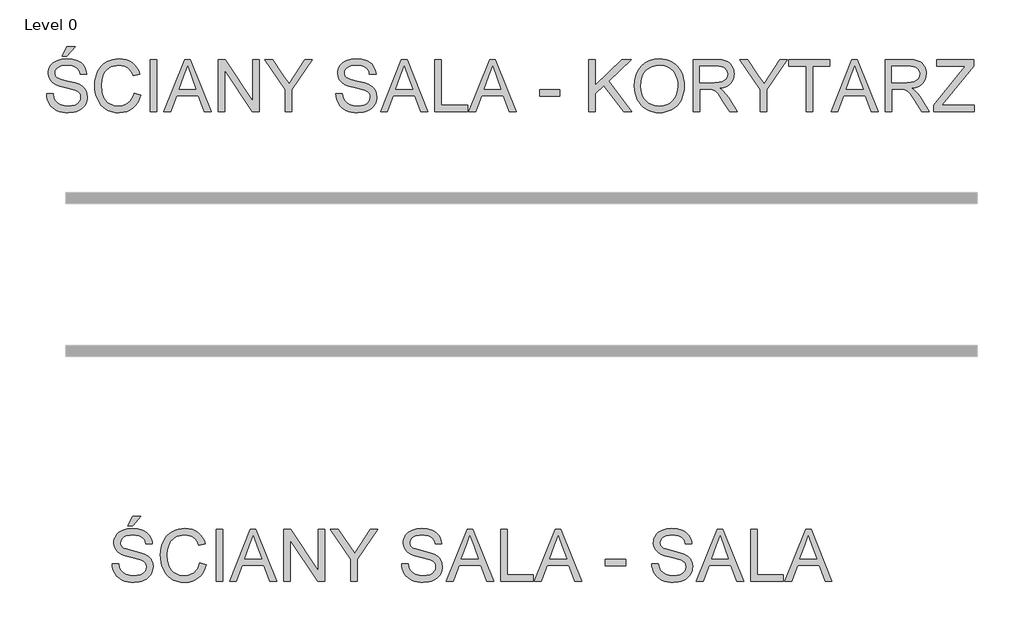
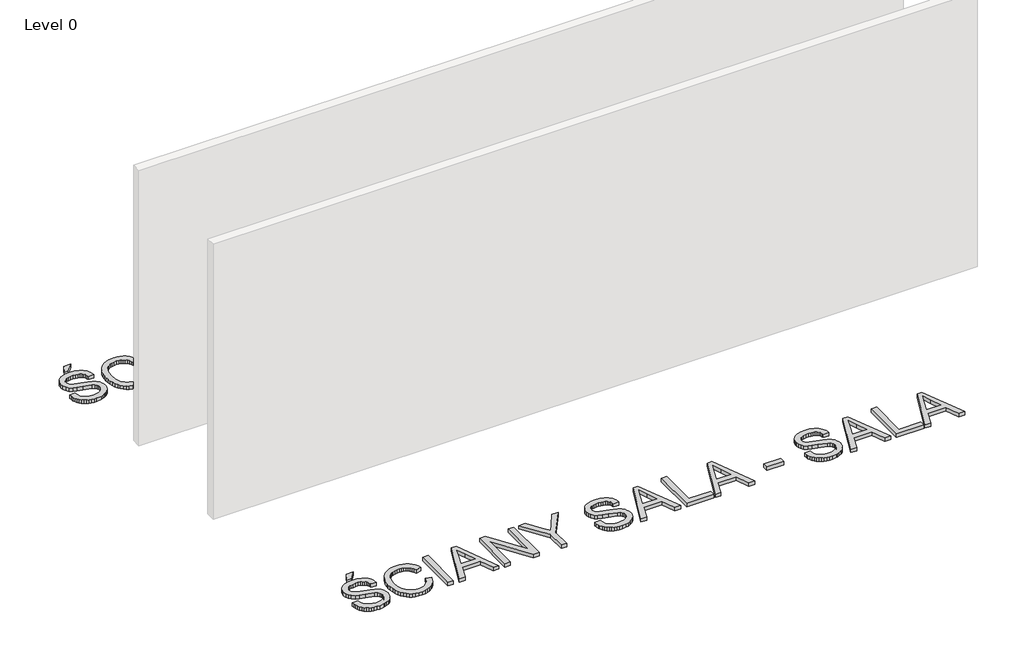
# One storey, part 3 of 3: 2 proxies.
"""IFC4 building model written with IfcOpenShell, lengths in millimetres."""

from ifc_helpers import new_model, si_unit, origin, origin_with_axes, place, context, project, spatial, polyline, outline, extrude, element, save

model = new_model("IFC4")

# Units and contexts
model_context = context("Model", 3, world=origin())
ifc_project = project(units=[si_unit("LENGTHUNIT", "METRE", prefix="MILLI")], contexts=[model_context])

# Site, building, storey
site = spatial("IfcSite", under=ifc_project)
building = spatial("IfcBuilding", under=site)
storey = spatial("IfcBuildingStorey", under=building, Name="Level 0", Elevation=0.0)

# Proxies
placement = place(None, origin())
element("IfcBuildingElementProxy", 1, Name="600mm Arial", ObjectType="600mm Arial", at=placement, inside=storey, context=model_context, shape_type="SweptSolid", body=[
    extrude(outline(polyline([(-2481.7464256, 20827.4359681), (-2406.4041929, 20827.4359681), (-2397.7589661, 20785.6261793), (-2382.1239813, 20752.020159), (-2357.733405, 20725.3487144), (-2322.8214036, 20704.3426525), (-2280.1470922, 20690.7126245), (-2232.4695856, 20686.1692819), (-2190.49425, 20689.6089786), (-2153.7428387, 20699.9280685), (-2123.9627911, 20716.2620291), (-2102.9015469, 20737.7463376), (-2090.375165, 20762.4128254), (-2086.1997043, 20788.2933238), (-2089.3267013, 20813.5116345), (-2098.7076922, 20835.3086428), (-2117.7639795, 20853.9050776), (-2149.9168659, 20869.5216683), (-2259.6192769, 20898.2900403), (-2331.6321774, 20917.3279336), (-2377.7093973, 20935.4461218), (-2415.2149667, 20960.7931913), (-2441.7944409, 20991.5113379), (-2457.6317608, 21026.938374), (-2462.9108674, 21066.4121121), (-2461.278391, 21088.8483153), (-2456.380962, 21110.5395574), (-2448.2185802, 21131.4858385), (-2436.7912457, 21151.6871586), (-2422.2277173, 21170.3203817), (-2404.6567535, 21186.5623717), (-2384.0783544, 21200.4131289), (-2360.4925199, 21211.872653), (-2307.4807244, 21227.2685145), (-2248.8035462, 21232.4004683), (-2185.2335374, 21227.0293912), (-2129.6097798, 21210.9161598), (-2105.2743858, 21198.9140097), (-2083.918836, 21184.391868), (-2065.5431303, 21167.3497346), (-2050.1472688, 21147.7876095), (-2037.8508131, 21126.2757098), (-2028.7733249, 21103.3842526), (-2022.9148041, 21079.113238), (-2020.2752508, 21053.4626659), (-2095.6174834, 21053.4626659), (-2100.6574668, 21077.5037543), (-2109.4498464, 21098.4178457), (-2121.9946225, 21116.2049402), (-2138.2917949, 21130.8650377), (-2158.6448662, 21142.3245618), (-2183.3573393, 21150.5099362), (-2212.4292139, 21155.4211609), (-2245.8604902, 21157.0582357), (-2280.3586243, 21155.439555), (-2309.8351692, 21150.5835126), (-2334.2901248, 21142.4901087), (-2353.7234912, 21131.1593433), (-2368.5307415, 21117.5385124), (-2379.1073489, 21102.5749122), (-2385.4533133, 21086.2685428), (-2387.5686348, 21068.6194041), (-2386.0695157, 21053.4350747), (-2381.5721583, 21039.6670911), (-2374.0765626, 21027.3154531), (-2363.5827287, 21016.3801608), (-2347.0648271, 21006.0242826), (-2321.0555701, 20995.5580399), (-2240.5629895, 20974.2944605), (-2157.495235, 20954.097739), (-2107.2425545, 20936.4761914), (-2064.2923315, 20909.1425592), (-2047.687058, 20893.075313), (-2034.328343, 20875.4077802), (-2024.0598368, 20856.2319312), (-2016.7251896, 20835.6397365), (-2010.8574717, 20790.2063101), (-2012.5451304, 20766.6388698), (-2017.6081063, 20743.7612083), (-2026.0463996, 20721.5733254), (-2037.8600102, 20700.0752213), (-2052.8420044, 20680.099229), (-2070.7854487, 20662.4776814), (-2091.6903431, 20647.2105786), (-2115.5566876, 20634.2979206), (-2141.6901048, 20624.0294144), (-2169.3962176, 20616.6947671), (-2229.5265297, 20610.8270493), (-2268.0667672, 20612.4089419), (-2303.342052, 20617.1546196), (-2335.3523841, 20625.0640825), (-2364.0977635, 20636.1373306), (-2389.7529341, 20650.3927579), (-2412.49264, 20667.8487585), (-2432.316881, 20688.5053326), (-2449.2256572, 20712.36248), (-2462.8464881, 20738.6476485), (-2472.8068931, 20766.5882861), (-2479.1068722, 20796.1843926), (-2481.7464256, 20827.4359681)])), origin_with_axes(), (0.0, 0.0, 1.0), 50.0),
    extrude(outline(polyline([(-2302.8086231, 21260.6538056), (-2246.3019486, 21373.6671545), (-2152.1241579, 21373.6671545), (-2246.3019486, 21260.6538056), (-2302.8086231, 21260.6538056)])), origin_with_axes(), (0.0, 0.0, 1.0), 50.0),
    extrude(outline(polyline([(-1474.0440644, 20834.4993024), (-1398.7018318, 20815.075133), (-1413.6102496, 20768.2207624), (-1433.4666803, 20727.2800949), (-1458.2711238, 20692.2531304), (-1488.0235802, 20663.139869), (-1522.0526647, 20640.2530104), (-1559.6869928, 20623.9052542), (-1600.9265645, 20614.0966005), (-1645.7713797, 20610.8270493), (-1691.7152424, 20613.3010557), (-1733.1617477, 20620.723075), (-1770.1108956, 20633.0931071), (-1802.5626861, 20650.411152), (-1830.9631761, 20672.4196923), (-1855.7584226, 20698.8612107), (-1876.9484255, 20729.7357072), (-1894.5331849, 20765.0431817), (-1908.3425552, 20803.2569239), (-1918.2063912, 20842.8502237), (-1924.1246928, 20883.8230809), (-1926.09746, 20926.1754956), (-1923.8671754, 20971.618119), (-1917.1763217, 21014.0625042), (-1906.0248987, 21053.5086511), (-1890.4129065, 21089.9565598), (-1870.689833, 21122.8038235), (-1847.2051662, 21151.4480353), (-1819.9589059, 21175.8891954), (-1788.9510522, 21196.1273036), (-1755.2346674, 21211.9968132), (-1719.8628135, 21223.3321772), (-1682.8354907, 21230.1333956), (-1644.1526989, 21232.4004683), (-1601.0599217, 21229.4666094), (-1561.5447969, 21220.6650327), (-1525.6073245, 21205.9957381), (-1493.2475045, 21185.4587258), (-1464.9987658, 21159.5966215), (-1441.3945373, 21128.9520513), (-1422.434819, 21093.5250152), (-1408.1196108, 21053.3155131), (-1483.4618434, 21035.3628717), (-1495.3260378, 21064.9911679), (-1509.5814651, 21090.3060477), (-1526.2281254, 21111.3075111), (-1545.2660186, 21127.9955581), (-1566.8055095, 21140.7104796), (-1590.9569624, 21149.7925663), (-1617.7203776, 21155.2418184), (-1647.0957549, 21157.0582357), (-1680.8949132, 21155.0440818), (-1711.8061979, 21149.00162), (-1739.8296088, 21138.9308504), (-1764.9651462, 21124.831773), (-1786.8955116, 21107.3389841), (-1805.3034069, 21087.0870803), (-1820.1888322, 21064.0760615), (-1831.5517873, 21038.3059277), (-1845.9543674, 20983.1604166), (-1850.7552274, 20926.3226484), (-1845.0714506, 20856.7193749), (-1837.9667296, 20825.4494053), (-1828.0201201, 20796.5338805), (-1815.0706739, 20770.547616), (-1798.9574425, 20748.0654276), (-1779.680426, 20729.0873152), (-1757.2396243, 20713.6132787), (-1732.7248878, 20701.6065301), (-1707.226067, 20693.0302811), (-1680.7431619, 20687.8845317), (-1653.2761724, 20686.1692819), (-1620.5208793, 20688.5053326), (-1590.3867453, 20695.5134846), (-1562.8737706, 20707.1937379), (-1537.9819551, 20723.5460926), (-1516.29991, 20744.4969722), (-1498.4162465, 20769.9728004), (-1484.3309647, 20799.9735771), (-1474.0440644, 20834.4993024)])), origin_with_axes(), (0.0, 0.0, 1.0), 50.0),
    extrude(outline(polyline([(-1285.6884828, 20620.2448284), (-1285.6884828, 21222.9826893), (-1210.3462502, 21222.9826893), (-1210.3462502, 20620.2448284), (-1285.6884828, 20620.2448284)])), origin_with_axes(), (0.0, 0.0, 1.0), 50.0),
    extrude(outline(polyline([(-1129.8536697, 20620.2448284), (-889.2588448, 21222.9826893), (-825.1002249, 21222.9826893), (-584.5054, 20620.2448284), (-664.1150638, 20620.2448284), (-733.1297261, 20808.6004099), (-981.3764964, 20808.6004099), (-1050.2440059, 20620.2448284), (-1129.8536697, 20620.2448284)]), holes=[polyline([(-953.7117704, 20883.9426425), (-760.6472993, 20883.9426425), (-814.9466818, 21032.1255102), (-857.1795349, 21147.6404567), (-894.7034984, 21045.0749564), (-953.7117704, 20883.9426425)])]), origin_with_axes(), (0.0, 0.0, 1.0), 50.0),
    extrude(outline(polyline([(-504.0128195, 20620.2448284), (-504.0128195, 21222.9826893), (-423.3730861, 21222.9826893), (-108.4660983, 20745.4718595), (-108.4660983, 21222.9826893), (-33.1238657, 21222.9826893), (-33.1238657, 20620.2448284), (-113.763599, 20620.2448284), (-428.6705869, 21097.9028109), (-428.6705869, 20620.2448284), (-504.0128195, 20620.2448284)])), origin_with_axes(), (0.0, 0.0, 1.0), 50.0),
    extrude(outline(polyline([(268.2450648, 20620.2448284), (268.2450648, 20875.554933), (32.8005879, 21222.9826893), (121.6808779, 21222.9826893), (247.3493675, 21037.4230109), (311.6551402, 20942.8037617), (376.1080658, 21044.1920396), (490.1514843, 21222.9826893), (579.0317743, 21222.9826893), (343.5872974, 20875.554933), (343.5872974, 20620.2448284), (268.2450648, 20620.2448284)])), origin_with_axes(), (0.0, 0.0, 1.0), 50.0),
    extrude(outline(polyline([(852.1473675, 20827.4359681), (927.4896001, 20827.4359681), (936.134827, 20785.6261793), (951.7698118, 20752.020159), (976.1603881, 20725.3487144), (1011.0723895, 20704.3426525), (1053.7467009, 20690.7126245), (1101.4242075, 20686.1692819), (1143.3995431, 20689.6089786), (1180.1509544, 20699.9280685), (1209.9310019, 20716.2620291), (1230.9922462, 20737.7463376), (1243.5186281, 20762.4128254), (1247.6940887, 20788.2933238), (1244.5670918, 20813.5116345), (1235.1861009, 20835.3086428), (1216.1298136, 20853.9050776), (1183.9769272, 20869.5216683), (1074.2745162, 20898.2900403), (1002.2616157, 20917.3279336), (956.1843958, 20935.4461218), (918.6788264, 20960.7931913), (892.0993522, 20991.5113379), (876.2620323, 21026.938374), (870.9829257, 21066.4121121), (872.615402, 21088.8483153), (877.5128311, 21110.5395574), (885.6752129, 21131.4858385), (897.1025473, 21151.6871586), (911.6660758, 21170.3203817), (929.2370396, 21186.5623717), (949.8154387, 21200.4131289), (973.4012731, 21211.872653), (1026.4130686, 21227.2685145), (1085.0902469, 21232.4004683), (1148.6602556, 21227.0293912), (1204.2840133, 21210.9161598), (1228.6194073, 21198.9140097), (1249.9749571, 21184.391868), (1268.3506628, 21167.3497346), (1283.7465243, 21147.7876095), (1296.04298, 21126.2757098), (1305.1204682, 21103.3842526), (1310.978989, 21079.113238), (1313.6185423, 21053.4626659), (1238.2763097, 21053.4626659), (1233.2363263, 21077.5037543), (1224.4439467, 21098.4178457), (1211.8991706, 21116.2049402), (1195.6019982, 21130.8650377), (1175.2489268, 21142.3245618), (1150.5364538, 21150.5099362), (1121.4645792, 21155.4211609), (1088.0333028, 21157.0582357), (1053.5351687, 21155.439555), (1024.0586239, 21150.5835126), (999.6036683, 21142.4901087), (980.1703019, 21131.1593433), (965.3630515, 21117.5385124), (954.7864442, 21102.5749122), (948.4404798, 21086.2685428), (946.3251583, 21068.6194041), (947.8242774, 21053.4350747), (952.3216348, 21039.6670911), (959.8172305, 21027.3154531), (970.3110644, 21016.3801608), (986.828966, 21006.0242826), (1012.838223, 20995.5580399), (1093.3308036, 20974.2944605), (1176.3985581, 20954.097739), (1226.6512386, 20936.4761914), (1269.6014616, 20909.1425592), (1286.2067351, 20893.075313), (1299.5654501, 20875.4077802), (1309.8339563, 20856.2319312), (1317.1686035, 20835.6397365), (1323.0363214, 20790.2063101), (1321.3486627, 20766.6388698), (1316.2856867, 20743.7612083), (1307.8473935, 20721.5733254), (1296.0337829, 20700.0752213), (1281.0517887, 20680.099229), (1263.1083443, 20662.4776814), (1242.20345, 20647.2105786), (1218.3371055, 20634.2979206), (1192.2036883, 20624.0294144), (1164.4975755, 20616.6947671), (1104.3672634, 20610.8270493), (1065.8270259, 20612.4089419), (1030.5517411, 20617.1546196), (998.541409, 20625.0640825), (969.7960296, 20636.1373306), (944.140859, 20650.3927579), (921.4011531, 20667.8487585), (901.5769121, 20688.5053326), (884.6681359, 20712.36248), (871.047305, 20738.6476485), (861.0869, 20766.5882861), (854.7869208, 20796.1843926), (852.1473675, 20827.4359681)])), origin_with_axes(), (0.0, 0.0, 1.0), 50.0),
    extrude(outline(polyline([(1365.8577856, 20620.2448284), (1606.4526104, 21222.9826893), (1670.6112304, 21222.9826893), (1911.2060552, 20620.2448284), (1831.5963915, 20620.2448284), (1762.5817292, 20808.6004099), (1514.3349589, 20808.6004099), (1445.4674494, 20620.2448284), (1365.8577856, 20620.2448284)]), holes=[polyline([(1541.9996849, 20883.9426425), (1735.064156, 20883.9426425), (1680.7647735, 21032.1255102), (1638.5319204, 21147.6404567), (1601.0079569, 21045.0749564), (1541.9996849, 20883.9426425)])]), origin_with_axes(), (0.0, 0.0, 1.0), 50.0),
    extrude(outline(polyline([(1991.6986358, 20620.2448284), (1991.6986358, 21222.9826893), (2067.0408684, 21222.9826893), (2067.0408684, 20695.587061), (2368.4097989, 20695.587061), (2368.4097989, 20620.2448284), (1991.6986358, 20620.2448284)])), origin_with_axes(), (0.0, 0.0, 1.0), 50.0),
    extrude(outline(polyline([(2382.9779259, 20620.2448284), (2623.5727507, 21222.9826893), (2687.7313707, 21222.9826893), (2928.3261955, 20620.2448284), (2848.7165318, 20620.2448284), (2779.7018695, 20808.6004099), (2531.4550991, 20808.6004099), (2462.5875896, 20620.2448284), (2382.9779259, 20620.2448284)]), holes=[polyline([(2559.1198252, 20883.9426425), (2752.1842962, 20883.9426425), (2697.8849137, 21032.1255102), (2655.6520607, 21147.6404567), (2618.1280972, 21045.0749564), (2559.1198252, 20883.9426425)])]), origin_with_axes(), (0.0, 0.0, 1.0), 50.0),
    extrude(outline(polyline([(3197.1743576, 20799.1826308), (3197.1743576, 20874.5248634), (3432.6188345, 20874.5248634), (3432.6188345, 20799.1826308), (3197.1743576, 20799.1826308)])), origin_with_axes(), (0.0, 0.0, 1.0), 50.0),
    extrude(outline(polyline([(3733.987765, 20827.4359681), (3809.3299976, 20827.4359681), (3817.9752245, 20785.6261793), (3833.6102092, 20752.020159), (3858.0007855, 20725.3487144), (3892.9127869, 20704.3426525), (3935.5870983, 20690.7126245), (3983.2646049, 20686.1692819), (4025.2399405, 20689.6089786), (4061.9913519, 20699.9280685), (4091.7713994, 20716.2620291), (4112.8326436, 20737.7463376), (4125.3590255, 20762.4128254), (4129.5344862, 20788.2933238), (4126.4074892, 20813.5116345), (4117.0264983, 20835.3086428), (4097.970211, 20853.9050776), (4065.8173246, 20869.5216683), (3956.1149136, 20898.2900403), (3884.1020131, 20917.3279336), (3838.0247932, 20935.4461218), (3800.5192238, 20960.7931913), (3773.9397496, 20991.5113379), (3758.1024297, 21026.938374), (3752.8233231, 21066.4121121), (3754.4557995, 21088.8483153), (3759.3532285, 21110.5395574), (3767.5156103, 21131.4858385), (3778.9429448, 21151.6871586), (3793.5064732, 21170.3203817), (3811.077437, 21186.5623717), (3831.6558361, 21200.4131289), (3855.2416706, 21211.872653), (3908.2534661, 21227.2685145), (3966.9306443, 21232.4004683), (4030.5006531, 21227.0293912), (4086.1244107, 21210.9161598), (4110.4598047, 21198.9140097), (4131.8153545, 21184.391868), (4150.1910602, 21167.3497346), (4165.5869217, 21147.7876095), (4177.8833774, 21126.2757098), (4186.9608656, 21103.3842526), (4192.8193864, 21079.113238), (4195.4589397, 21053.4626659), (4120.1167071, 21053.4626659), (4115.0767238, 21077.5037543), (4106.2843441, 21098.4178457), (4093.739568, 21116.2049402), (4077.4423956, 21130.8650377), (4057.0893243, 21142.3245618), (4032.3768512, 21150.5099362), (4003.3049766, 21155.4211609), (3969.8737003, 21157.0582357), (3935.3755662, 21155.439555), (3905.8990213, 21150.5835126), (3881.4440657, 21142.4901087), (3862.0106993, 21131.1593433), (3847.203449, 21117.5385124), (3836.6268416, 21102.5749122), (3830.2808772, 21086.2685428), (3828.1655557, 21068.6194041), (3829.6646748, 21053.4350747), (3834.1620322, 21039.6670911), (3841.6576279, 21027.3154531), (3852.1514618, 21016.3801608), (3868.6693634, 21006.0242826), (3894.6786204, 20995.5580399), (3975.171201, 20974.2944605), (4058.2389555, 20954.097739), (4108.491636, 20936.4761914), (4151.441859, 20909.1425592), (4168.0471325, 20893.075313), (4181.4058475, 20875.4077802), (4191.6743537, 20856.2319312), (4199.009001, 20835.6397365), (4204.8767188, 20790.2063101), (4203.1890601, 20766.6388698), (4198.1260842, 20743.7612083), (4189.6877909, 20721.5733254), (4177.8741803, 20700.0752213), (4162.8921861, 20680.099229), (4144.9487418, 20662.4776814), (4124.0438474, 20647.2105786), (4100.177503, 20634.2979206), (4074.0440857, 20624.0294144), (4046.337973, 20616.6947671), (3986.2076608, 20610.8270493), (3947.6674233, 20612.4089419), (3912.3921385, 20617.1546196), (3880.3818064, 20625.0640825), (3851.636427, 20636.1373306), (3825.9812564, 20650.3927579), (3803.2415505, 20667.8487585), (3783.4173095, 20688.5053326), (3766.5085333, 20712.36248), (3752.8877025, 20738.6476485), (3742.9272974, 20766.5882861), (3736.6273183, 20796.1843926), (3733.987765, 20827.4359681)])), origin_with_axes(), (0.0, 0.0, 1.0), 50.0),
    extrude(outline(polyline([(4247.698183, 20620.2448284), (4488.2930079, 21222.9826893), (4552.4516278, 21222.9826893), (4793.0464527, 20620.2448284), (4713.4367889, 20620.2448284), (4644.4221266, 20808.6004099), (4396.1753563, 20808.6004099), (4327.3078468, 20620.2448284), (4247.698183, 20620.2448284)]), holes=[polyline([(4423.8400823, 20883.9426425), (4616.9045534, 20883.9426425), (4562.6051709, 21032.1255102), (4520.3723178, 21147.6404567), (4482.8483543, 21045.0749564), (4423.8400823, 20883.9426425)])]), origin_with_axes(), (0.0, 0.0, 1.0), 50.0),
    extrude(outline(polyline([(4873.5390332, 20620.2448284), (4873.5390332, 21222.9826893), (4948.8812658, 21222.9826893), (4948.8812658, 20695.587061), (5250.2501963, 20695.587061), (5250.2501963, 20620.2448284), (4873.5390332, 20620.2448284)])), origin_with_axes(), (0.0, 0.0, 1.0), 50.0),
    extrude(outline(polyline([(5264.8183233, 20620.2448284), (5505.4131481, 21222.9826893), (5569.5717681, 21222.9826893), (5810.1665929, 20620.2448284), (5730.5569292, 20620.2448284), (5661.5422669, 20808.6004099), (5413.2954965, 20808.6004099), (5344.427987, 20620.2448284), (5264.8183233, 20620.2448284)]), holes=[polyline([(5440.9602226, 20883.9426425), (5634.0246936, 20883.9426425), (5579.7253112, 21032.1255102), (5537.4924581, 21147.6404567), (5499.9684946, 21045.0749564), (5440.9602226, 20883.9426425)])]), origin_with_axes(), (0.0, 0.0, 1.0), 50.0),
])
element("IfcBuildingElementProxy", 2, Name="600mm Arial", ObjectType="600mm Arial", at=placement, inside=storey, context=model_context, shape_type="SweptSolid", body=[
    extrude(outline(polyline([(-3237.8936999, 26242.2698256), (-3162.5514673, 26242.2698256), (-3153.9062404, 26200.4600369), (-3138.2712556, 26166.8540166), (-3113.8806794, 26140.182572), (-3078.968678, 26119.1765101), (-3036.2943666, 26105.5464821), (-2988.61686, 26101.0031395), (-2946.6415243, 26104.4428362), (-2909.890113, 26114.7619261), (-2880.1100655, 26131.0958867), (-2859.0488213, 26152.5801952), (-2846.5224394, 26177.246683), (-2842.3469787, 26203.1271814), (-2845.4739757, 26228.3454921), (-2854.8549666, 26250.1425003), (-2873.9112539, 26268.7389352), (-2906.0641403, 26284.3555259), (-3015.7665512, 26313.1238979), (-3087.7794518, 26332.1617912), (-3133.8566717, 26350.2799794), (-3171.3622411, 26375.6270489), (-3197.9417153, 26406.3451955), (-3213.7790351, 26441.7722316), (-3219.0581418, 26481.2459697), (-3217.4256654, 26503.6821729), (-3212.5282364, 26525.373415), (-3204.3658546, 26546.3196961), (-3192.9385201, 26566.5210162), (-3178.3749916, 26585.1542393), (-3160.8040278, 26601.3962293), (-3140.2256287, 26615.2469865), (-3116.6397943, 26626.7065106), (-3063.6279988, 26642.1023721), (-3004.9508206, 26647.2343259), (-2941.3808118, 26641.8632488), (-2885.7570541, 26625.7500174), (-2861.4216602, 26613.7478673), (-2840.0661103, 26599.2257256), (-2821.6904047, 26582.1835921), (-2806.2945432, 26562.621467), (-2793.9980875, 26541.1095674), (-2784.9205993, 26518.2181102), (-2779.0620785, 26493.9470956), (-2776.4225252, 26468.2965235), (-2851.7647578, 26468.2965235), (-2856.8047411, 26492.3376119), (-2865.5971208, 26513.2517033), (-2878.1418968, 26531.0387978), (-2894.4390692, 26545.6988953), (-2914.7921406, 26557.1584194), (-2939.5046136, 26565.3437938), (-2968.5764883, 26570.2550184), (-3002.0077646, 26571.8920933), (-3036.5058987, 26570.2734125), (-3065.9824436, 26565.4173702), (-3090.4373992, 26557.3239663), (-3109.8707656, 26545.9932009), (-3124.6780159, 26532.37237), (-3135.2546233, 26517.4087698), (-3141.6005877, 26501.1024004), (-3143.7159092, 26483.4532617), (-3142.21679, 26468.2689323), (-3137.7194326, 26454.5009487), (-3130.223837, 26442.1493107), (-3119.7300031, 26431.2140184), (-3103.2121015, 26420.8581402), (-3077.2028444, 26410.3918974), (-2996.7102639, 26389.1283181), (-2913.6425094, 26368.9315966), (-2863.3898288, 26351.310049), (-2820.4396059, 26323.9764168), (-2803.8343323, 26307.9091706), (-2790.4756174, 26290.2416378), (-2780.2071112, 26271.0657888), (-2772.8724639, 26250.4735941), (-2767.0047461, 26205.0401677), (-2768.6924048, 26181.4727274), (-2773.7553807, 26158.5950658), (-2782.193674, 26136.407183), (-2794.0072846, 26114.9090789), (-2808.9892788, 26094.9330866), (-2826.9327231, 26077.311539), (-2847.8376175, 26062.0444362), (-2871.7039619, 26049.1317782), (-2897.8373792, 26038.863272), (-2925.5434919, 26031.5286247), (-2985.673804, 26025.6609069), (-3024.2140416, 26027.2427995), (-3059.4893264, 26031.9884772), (-3091.4996585, 26039.8979401), (-3120.2450379, 26050.9711882), (-3145.9002085, 26065.2266155), (-3168.6399143, 26082.6826161), (-3188.4641554, 26103.3391902), (-3205.3729316, 26127.1963376), (-3218.9937624, 26153.4815061), (-3228.9541674, 26181.4221436), (-3235.2541466, 26211.0182502), (-3237.8936999, 26242.2698256)])), origin_with_axes(), (0.0, 0.0, 1.0), 50.0),
    extrude(outline(polyline([(-3058.9558975, 26675.4876632), (-3002.449223, 26788.5010121), (-2908.2714323, 26788.5010121), (-3002.449223, 26675.4876632), (-3058.9558975, 26675.4876632)])), origin_with_axes(), (0.0, 0.0, 1.0), 50.0),
    extrude(outline(polyline([(-2230.1913387, 26249.33316), (-2154.8491061, 26229.9089906), (-2169.757524, 26183.05462), (-2189.6139547, 26142.1139525), (-2214.4183982, 26107.086988), (-2244.1708546, 26077.9737266), (-2278.1999391, 26055.086868), (-2315.8342672, 26038.7391118), (-2357.0738389, 26028.9304581), (-2401.9186541, 26025.6609069), (-2447.8625168, 26028.1349133), (-2489.309022, 26035.5569326), (-2526.2581699, 26047.9269646), (-2558.7099604, 26065.2450096), (-2587.1104505, 26087.2535499), (-2611.9056969, 26113.6950683), (-2633.0956999, 26144.5695648), (-2650.6804592, 26179.8770393), (-2664.4898296, 26218.0907815), (-2674.3536656, 26257.6840812), (-2680.2719672, 26298.6569385), (-2682.2447344, 26341.0093532), (-2680.0144498, 26386.4519766), (-2673.323596, 26428.8963618), (-2662.1721731, 26468.3425087), (-2646.5601809, 26504.7904174), (-2626.8371074, 26537.6376811), (-2603.3524405, 26566.2818929), (-2576.1061803, 26590.723053), (-2545.0983266, 26610.9611612), (-2511.3819418, 26626.8306708), (-2476.0100879, 26638.1660348), (-2438.9827651, 26644.9672531), (-2400.2999733, 26647.2343259), (-2357.2071961, 26644.300467), (-2317.6920713, 26635.4988903), (-2281.7545989, 26620.8295957), (-2249.3947789, 26600.2925834), (-2221.1460402, 26574.4304791), (-2197.5418117, 26543.7859089), (-2178.5820933, 26508.3588728), (-2164.2668852, 26468.1493707), (-2239.6091178, 26450.1967293), (-2251.4733122, 26479.8250255), (-2265.7287395, 26505.1399053), (-2282.3753998, 26526.1413687), (-2301.413293, 26542.8294157), (-2322.9527838, 26555.5443372), (-2347.1042368, 26564.6264239), (-2373.867652, 26570.075676), (-2403.2430293, 26571.8920933), (-2437.0421876, 26569.8779394), (-2467.9534722, 26563.8354776), (-2495.9768832, 26553.764708), (-2521.1124205, 26539.6656306), (-2543.042786, 26522.1728417), (-2561.4506813, 26501.9209378), (-2576.3361065, 26478.909919), (-2587.6990617, 26453.1397853), (-2602.1016418, 26397.9942742), (-2606.9025018, 26341.156506), (-2601.218725, 26271.5532325), (-2594.1140039, 26240.2832629), (-2584.1673945, 26211.3677381), (-2571.2179483, 26185.3814736), (-2555.1047169, 26162.8992852), (-2535.8277003, 26143.9211728), (-2513.3868986, 26128.4471363), (-2488.8721622, 26116.4403877), (-2463.3733414, 26107.8641387), (-2436.8904363, 26102.7183893), (-2409.4234468, 26101.0031395), (-2376.6681536, 26103.3391902), (-2346.5340197, 26110.3473422), (-2319.021045, 26122.0275955), (-2294.1292295, 26138.3799502), (-2272.4471844, 26159.3308298), (-2254.5635209, 26184.806658), (-2240.478239, 26214.8074347), (-2230.1913387, 26249.33316)])), origin_with_axes(), (0.0, 0.0, 1.0), 50.0),
    extrude(outline(polyline([(-2041.8357572, 26035.078686), (-2041.8357572, 26637.8165469), (-1966.4935246, 26637.8165469), (-1966.4935246, 26035.078686), (-2041.8357572, 26035.078686)])), origin_with_axes(), (0.0, 0.0, 1.0), 50.0),
    extrude(outline(polyline([(-1886.0009441, 26035.078686), (-1645.4061192, 26637.8165469), (-1581.2474993, 26637.8165469), (-1340.6526744, 26035.078686), (-1420.2623382, 26035.078686), (-1489.2770005, 26223.4342675), (-1737.5237708, 26223.4342675), (-1806.3912803, 26035.078686), (-1886.0009441, 26035.078686)]), holes=[polyline([(-1709.8590448, 26298.7765001), (-1516.7945737, 26298.7765001), (-1571.0939562, 26446.9593678), (-1613.3268092, 26562.4743143), (-1650.8507727, 26459.908814), (-1709.8590448, 26298.7765001)])]), origin_with_axes(), (0.0, 0.0, 1.0), 50.0),
    extrude(outline(polyline([(-1260.1600939, 26035.078686), (-1260.1600939, 26637.8165469), (-1179.5203605, 26637.8165469), (-864.6133726, 26160.3057171), (-864.6133726, 26637.8165469), (-789.27114, 26637.8165469), (-789.27114, 26035.078686), (-869.9108734, 26035.078686), (-1184.8178612, 26512.7366685), (-1184.8178612, 26035.078686), (-1260.1600939, 26035.078686)])), origin_with_axes(), (0.0, 0.0, 1.0), 50.0),
    extrude(outline(polyline([(-487.9022096, 26035.078686), (-487.9022096, 26290.3887906), (-723.3466865, 26637.8165469), (-634.4663965, 26637.8165469), (-508.7979069, 26452.2568685), (-444.4921342, 26357.6376193), (-380.0392086, 26459.0258972), (-265.9957901, 26637.8165469), (-177.1155001, 26637.8165469), (-412.559977, 26290.3887906), (-412.559977, 26035.078686), (-487.9022096, 26035.078686)])), origin_with_axes(), (0.0, 0.0, 1.0), 50.0),
    extrude(outline(polyline([(96.0000932, 26242.2698256), (171.3423258, 26242.2698256), (179.9875527, 26200.4600369), (195.6225375, 26166.8540166), (220.0131137, 26140.182572), (254.9251151, 26119.1765101), (297.5994265, 26105.5464821), (345.2769331, 26101.0031395), (387.2522687, 26104.4428362), (424.0036801, 26114.7619261), (453.7837276, 26131.0958867), (474.8449718, 26152.5801952), (487.3713537, 26177.246683), (491.5468144, 26203.1271814), (488.4198174, 26228.3454921), (479.0388265, 26250.1425003), (459.9825392, 26268.7389352), (427.8296528, 26284.3555259), (318.1272418, 26313.1238979), (246.1143413, 26332.1617912), (200.0371214, 26350.2799794), (162.531552, 26375.6270489), (135.9520778, 26406.3451955), (120.1147579, 26441.7722316), (114.8356513, 26481.2459697), (116.4681277, 26503.6821729), (121.3655567, 26525.373415), (129.5279385, 26546.3196961), (140.955273, 26566.5210162), (155.5188015, 26585.1542393), (173.0897652, 26601.3962293), (193.6681644, 26615.2469865), (217.2539988, 26626.7065106), (270.2657943, 26642.1023721), (328.9429725, 26647.2343259), (392.5129813, 26641.8632488), (448.1367389, 26625.7500174), (472.4721329, 26613.7478673), (493.8276827, 26599.2257256), (512.2033884, 26582.1835921), (527.5992499, 26562.621467), (539.8957056, 26541.1095674), (548.9731938, 26518.2181102), (554.8317146, 26493.9470956), (557.4712679, 26468.2965235), (482.1290353, 26468.2965235), (477.089052, 26492.3376119), (468.2966723, 26513.2517033), (455.7518962, 26531.0387978), (439.4547239, 26545.6988953), (419.1016525, 26557.1584194), (394.3891794, 26565.3437938), (365.3173048, 26570.2550184), (331.8860285, 26571.8920933), (297.3878944, 26570.2734125), (267.9113495, 26565.4173702), (243.4563939, 26557.3239663), (224.0230275, 26545.9932009), (209.2157772, 26532.37237), (198.6391698, 26517.4087698), (192.2932054, 26501.1024004), (190.1778839, 26483.4532617), (191.6770031, 26468.2689323), (196.1743604, 26454.5009487), (203.6699561, 26442.1493107), (214.16379, 26431.2140184), (230.6816916, 26420.8581402), (256.6909487, 26410.3918974), (337.1835292, 26389.1283181), (420.2512837, 26368.9315966), (470.5039642, 26351.310049), (513.4541872, 26323.9764168), (530.0594607, 26307.9091706), (543.4181757, 26290.2416378), (553.6866819, 26271.0657888), (561.0213292, 26250.4735941), (566.889047, 26205.0401677), (565.2013883, 26181.4727274), (560.1384124, 26158.5950658), (551.7001191, 26136.407183), (539.8865085, 26114.9090789), (524.9045143, 26094.9330866), (506.96107, 26077.311539), (486.0561756, 26062.0444362), (462.1898312, 26049.1317782), (436.0564139, 26038.863272), (408.3503012, 26031.5286247), (348.2199891, 26025.6609069), (309.6797515, 26027.2427995), (274.4044667, 26031.9884772), (242.3941346, 26039.8979401), (213.6487552, 26050.9711882), (187.9935846, 26065.2266155), (165.2538788, 26082.6826161), (145.4296377, 26103.3391902), (128.5208615, 26127.1963376), (114.9000307, 26153.4815061), (104.9396256, 26181.4221436), (98.6396465, 26211.0182502), (96.0000932, 26242.2698256)])), origin_with_axes(), (0.0, 0.0, 1.0), 50.0),
    extrude(outline(polyline([(609.7105112, 26035.078686), (850.3053361, 26637.8165469), (914.463956, 26637.8165469), (1155.0587809, 26035.078686), (1075.4491171, 26035.078686), (1006.4344548, 26223.4342675), (758.1876845, 26223.4342675), (689.320175, 26035.078686), (609.7105112, 26035.078686)]), holes=[polyline([(785.8524105, 26298.7765001), (978.9168816, 26298.7765001), (924.6174991, 26446.9593678), (882.384646, 26562.4743143), (844.8606825, 26459.908814), (785.8524105, 26298.7765001)])]), origin_with_axes(), (0.0, 0.0, 1.0), 50.0),
    extrude(outline(polyline([(1235.5513614, 26035.078686), (1235.5513614, 26637.8165469), (1310.893594, 26637.8165469), (1310.893594, 26110.4209186), (1612.2625245, 26110.4209186), (1612.2625245, 26035.078686), (1235.5513614, 26035.078686)])), origin_with_axes(), (0.0, 0.0, 1.0), 50.0),
    extrude(outline(polyline([(1626.8306515, 26035.078686), (1867.4254763, 26637.8165469), (1931.5840963, 26637.8165469), (2172.1789211, 26035.078686), (2092.5692574, 26035.078686), (2023.5545951, 26223.4342675), (1775.3078247, 26223.4342675), (1706.4403152, 26035.078686), (1626.8306515, 26035.078686)]), holes=[polyline([(1802.9725508, 26298.7765001), (1996.0370218, 26298.7765001), (1941.7376394, 26446.9593678), (1899.5047863, 26562.4743143), (1861.9808228, 26459.908814), (1802.9725508, 26298.7765001)])]), origin_with_axes(), (0.0, 0.0, 1.0), 50.0),
    extrude(outline(polyline([(2441.0270832, 26214.0164884), (2441.0270832, 26289.358721), (2676.4715601, 26289.358721), (2676.4715601, 26214.0164884), (2441.0270832, 26214.0164884)])), origin_with_axes(), (0.0, 0.0, 1.0), 50.0),
    extrude(outline(polyline([(3006.0938278, 26035.078686), (3006.0938278, 26637.8165469), (3081.4360604, 26637.8165469), (3081.4360604, 26342.7751867), (3390.4569364, 26637.8165469), (3495.8183398, 26637.8165469), (3236.3879568, 26390.0112349), (3505.2361189, 26035.078686), (3413.1184673, 26035.078686), (3182.9714911, 26339.0963668), (3081.4360604, 26242.2698256), (3081.4360604, 26035.078686), (3006.0938278, 26035.078686)])), origin_with_axes(), (0.0, 0.0, 1.0), 50.0),
    extrude(outline(polyline([(3533.4894561, 26328.5013653), (3538.5110453, 26399.1990877), (3553.575813, 26461.7850122), (3578.6837592, 26516.2591386), (3595.0039242, 26540.4542776), (3613.8348838, 26562.621467), (3656.9230625, 26599.6395928), (3705.8421708, 26626.0811112), (3760.5922088, 26641.9460223), (3821.1731763, 26647.2343259), (3861.7229692, 26644.7511225), (3900.2310171, 26637.3015121), (3936.6973199, 26624.8854947), (3971.1218776, 26607.5030705), (4002.5389999, 26585.6784711), (4029.9829968, 26559.9359285), (4053.4538681, 26530.2754426), (4072.9516138, 26496.6970135), (4088.2738989, 26459.9639963), (4099.2183883, 26420.8397461), (4105.7850819, 26379.324263), (4107.9739798, 26335.4175468), (4105.6701188, 26290.9314166), (4098.7585358, 26248.8549134), (4087.2392308, 26209.1880372), (4071.1122038, 26171.9307882), (4050.7591325, 26138.0672505), (4026.5616942, 26108.5815086), (3998.5198891, 26083.4735624), (3966.6337172, 26062.743412), (3932.1585757, 26046.519816), (3896.349862, 26034.9315332), (3859.2075761, 26027.9785635), (3820.7317179, 26025.6609069), (3779.4737522, 26028.2222853), (3740.4598666, 26035.9064205), (3703.6900612, 26048.7133124), (3669.1643359, 26066.6429612), (3637.7840017, 26089.0009894), (3610.4503695, 26115.0930199), (3587.1634392, 26144.9190527), (3567.9232108, 26178.4790877), (3552.8584431, 26214.4257571), (3542.0978948, 26251.4116932), (3535.6415658, 26289.436896), (3533.4894561, 26328.5013653)]), holes=[polyline([(3608.8316887, 26327.7656013), (3612.5978806, 26277.8164234), (3623.8964564, 26233.477446), (3642.727416, 26194.7486689), (3669.0907595, 26161.6300923), (3701.1378798, 26135.1058005), (3737.0201699, 26116.1598777), (3776.7376298, 26104.7923241), (3820.2902595, 26101.0031395), (3864.5878503, 26104.8291123), (3904.7743597, 26116.3070305), (3940.8497879, 26135.4368943), (3972.8141347, 26162.2187035), (3998.9843402, 26196.0362559), (4017.677344, 26236.2733491), (4028.8931464, 26282.9299832), (4032.6317471, 26336.006158), (4031.0314605, 26370.485898), (4026.2306004, 26402.7031637), (4018.229167, 26432.6579552), (4007.0271603, 26460.3502724), (3992.7487403, 26485.4168318), (3975.5180674, 26507.4943501), (3955.3351414, 26526.5828271), (3932.1999625, 26542.6822629), (3906.8299004, 26555.4615637), (3879.942325, 26564.5896357), (3851.5372365, 26570.0664789), (3821.6146347, 26571.8920933), (3779.5749197, 26568.3742217), (3740.5702312, 26557.820607), (3704.6005691, 26540.2312491), (3671.6659335, 26515.6061481), (3644.1759514, 26482.7588844), (3624.5402499, 26440.5030388), (3612.758829, 26388.8386111), (3608.8316887, 26327.7656013)])]), origin_with_axes(), (0.0, 0.0, 1.0), 50.0),
    extrude(outline(polyline([(4211.5695496, 26035.078686), (4211.5695496, 26637.8165469), (4471.2942382, 26637.8165469), (4541.0998468, 26633.7514508), (4591.8859562, 26621.5561627), (4611.4848695, 26611.8624721), (4629.0052495, 26599.0417846), (4644.4470963, 26583.0941001), (4657.8104098, 26564.0194186), (4668.5939507, 26542.8432113), (4676.29648, 26520.5909491), (4680.9179976, 26497.2626321), (4682.4585034, 26472.8582602), (4679.9063221, 26441.9009903), (4672.2497781, 26413.4821062), (4659.4888714, 26387.6016078), (4641.623602, 26364.2594953), (4618.4240436, 26344.2007295), (4589.6602701, 26328.1702715), (4555.3322815, 26316.1681214), (4515.4400776, 26308.1942792), (4540.2721123, 26291.9706832), (4558.2615419, 26275.9678164), (4589.1268413, 26239.3635579), (4619.3299531, 26198.4182918), (4719.8353141, 26035.078686), (4632.2793993, 26035.078686), (4553.8469579, 26160.0114115), (4497.1931307, 26242.711284), (4476.1318864, 26266.8259488), (4457.3882988, 26281.7803519), (4421.5565924, 26296.1277497), (4377.8522114, 26298.7765001), (4286.9117822, 26298.7765001), (4286.9117822, 26035.078686), (4211.5695496, 26035.078686)]), holes=[polyline([(4286.9117822, 26374.1187327), (4455.5488888, 26374.1187327), (4503.9805535, 26376.7858772), (4541.5596993, 26384.7873106), (4569.8498247, 26398.6564618), (4590.4144282, 26418.9267597), (4602.9408102, 26443.4460947), (4607.1162708, 26470.0623571), (4605.1251095, 26489.3301766), (4599.1516256, 26506.8137684), (4589.1958191, 26522.5131325), (4575.25769, 26536.428269), (4557.0153416, 26547.8234138), (4534.1468771, 26555.9628029), (4506.6522965, 26560.8464364), (4474.5315998, 26562.4743143), (4286.9117822, 26562.4743143), (4286.9117822, 26374.1187327)])]), origin_with_axes(), (0.0, 0.0, 1.0), 50.0),
    extrude(outline(polyline([(4983.8274339, 26035.078686), (4983.8274339, 26290.3887906), (4748.382957, 26637.8165469), (4837.263247, 26637.8165469), (4962.9317366, 26452.2568685), (5027.2375093, 26357.6376193), (5091.6904349, 26459.0258972), (5205.7338534, 26637.8165469), (5294.6141434, 26637.8165469), (5059.1696665, 26290.3887906), (5059.1696665, 26035.078686), (4983.8274339, 26035.078686)])), origin_with_axes(), (0.0, 0.0, 1.0), 50.0),
    extrude(outline(polyline([(5511.2230622, 26035.078686), (5511.2230622, 26562.4743143), (5313.4497016, 26562.4743143), (5313.4497016, 26637.8165469), (5784.3386554, 26637.8165469), (5784.3386554, 26562.4743143), (5586.5652948, 26562.4743143), (5586.5652948, 26035.078686), (5511.2230622, 26035.078686)])), origin_with_axes(), (0.0, 0.0, 1.0), 50.0),
    extrude(outline(polyline([(5798.9067824, 26035.078686), (6039.5016072, 26637.8165469), (6103.6602272, 26637.8165469), (6344.255052, 26035.078686), (6264.6453883, 26035.078686), (6195.630726, 26223.4342675), (5947.3839556, 26223.4342675), (5878.5164461, 26035.078686), (5798.9067824, 26035.078686)]), holes=[polyline([(5975.0486817, 26298.7765001), (6168.1131527, 26298.7765001), (6113.8137703, 26446.9593678), (6071.5809172, 26562.4743143), (6034.0569537, 26459.908814), (5975.0486817, 26298.7765001)])]), origin_with_axes(), (0.0, 0.0, 1.0), 50.0),
    extrude(outline(polyline([(6424.7476326, 26035.078686), (6424.7476326, 26637.8165469), (6684.4723212, 26637.8165469), (6754.2779298, 26633.7514508), (6805.0640392, 26621.5561627), (6824.6629525, 26611.8624721), (6842.1833325, 26599.0417846), (6857.6251793, 26583.0941001), (6870.9884927, 26564.0194186), (6881.7720337, 26542.8432113), (6889.474563, 26520.5909491), (6894.0960806, 26497.2626321), (6895.6365864, 26472.8582602), (6893.0844051, 26441.9009903), (6885.427861, 26413.4821062), (6872.6669543, 26387.6016078), (6854.8016849, 26364.2594953), (6831.6021266, 26344.2007295), (6802.8383531, 26328.1702715), (6768.5103645, 26316.1681214), (6728.6181606, 26308.1942792), (6753.4501953, 26291.9706832), (6771.4396248, 26275.9678164), (6802.3049242, 26239.3635579), (6832.508036, 26198.4182918), (6933.0133971, 26035.078686), (6845.4574823, 26035.078686), (6767.0250409, 26160.0114115), (6710.3712136, 26242.711284), (6689.3099694, 26266.8259488), (6670.5663818, 26281.7803519), (6634.7346754, 26296.1277497), (6591.0302944, 26298.7765001), (6500.0898652, 26298.7765001), (6500.0898652, 26035.078686), (6424.7476326, 26035.078686)]), holes=[polyline([(6500.0898652, 26374.1187327), (6668.7269718, 26374.1187327), (6717.1586365, 26376.7858772), (6754.7377823, 26384.7873106), (6783.0279077, 26398.6564618), (6803.5925112, 26418.9267597), (6816.1188932, 26443.4460947), (6820.2943538, 26470.0623571), (6818.3031925, 26489.3301766), (6812.3297086, 26506.8137684), (6802.3739021, 26522.5131325), (6788.435773, 26536.428269), (6770.1934246, 26547.8234138), (6747.3249601, 26555.9628029), (6719.8303794, 26560.8464364), (6687.7096827, 26562.4743143), (6500.0898652, 26562.4743143), (6500.0898652, 26374.1187327)])]), origin_with_axes(), (0.0, 0.0, 1.0), 50.0),
    extrude(outline(polyline([(6980.3965981, 26035.078686), (6980.3965981, 26113.2168217), (7288.6817101, 26490.6637488), (7347.2485237, 26562.4743143), (7018.0677144, 26562.4743143), (7018.0677144, 26637.8165469), (7441.8677728, 26637.8165469), (7441.8677728, 26562.4743143), (7104.4464069, 26149.4164101), (7072.6614025, 26110.4209186), (7451.2855519, 26110.4209186), (7451.2855519, 26035.078686), (6980.3965981, 26035.078686)])), origin_with_axes(), (0.0, 0.0, 1.0), 50.0),
])

save(model, "model.ifc")
